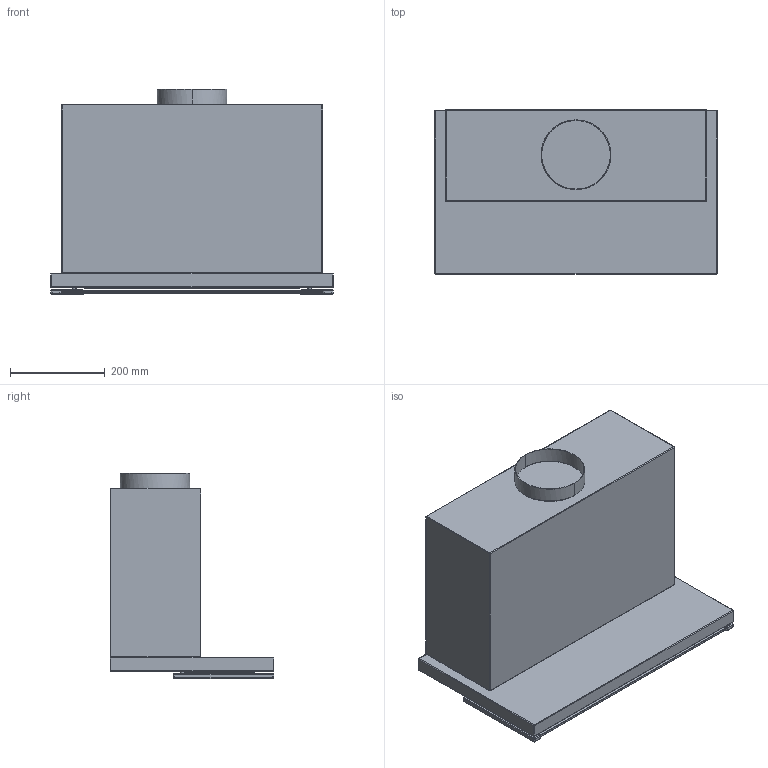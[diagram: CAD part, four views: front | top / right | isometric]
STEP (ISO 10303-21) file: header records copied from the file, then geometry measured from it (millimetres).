
FILE_DESCRIPTION(/* description */ (''),/* implementation_level */ '2;1');
FILE_NAME(/* name */ 'X6103100003-A',/* time_stamp */ '2017-01-05T14:31:03+01:00',/* author */ (''),/* organization */ (''),/* preprocessor_version */ 'ST-DEVELOPER v15',/* originating_system */ '',/* authorisation */ '');
FILE_SCHEMA (('AUTOMOTIVE_DESIGN_CC2'));
Length unit declared in the file: millimetre
Products named in the file (1): Document
Bounding box: 596 x 346 x 433.6 mm (x, y, z)
Volume: 44817142.7 mm3; surface area: 1708463.4 mm2
Topology: 11 solids, 11 shells, 265 faces, 599 edges, 344 vertices
Faces by surface type: bspline 151, plane 114
Entity records: 10197 total; most frequent: CARTESIAN_POINT 6424, ORIENTED_EDGE 1170, EDGE_CURVE 585, B_SPLINE_CURVE_WITH_KNOTS 373, VERTEX_POINT 344, EDGE_LOOP 273, ADVANCED_FACE 265, FACE_OUTER_BOUND 265
